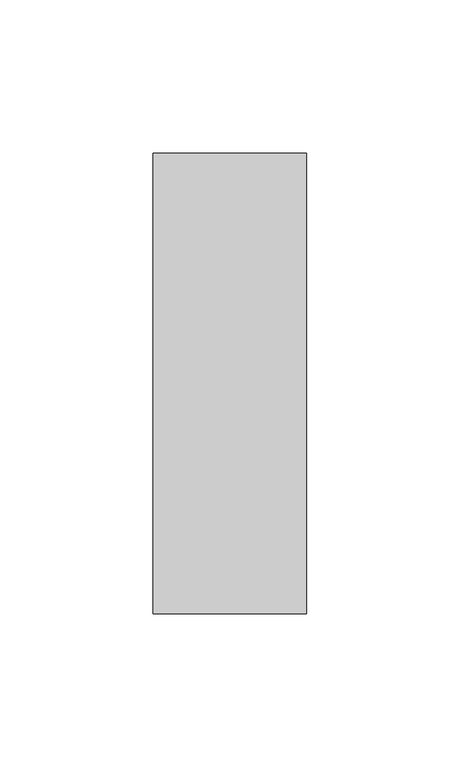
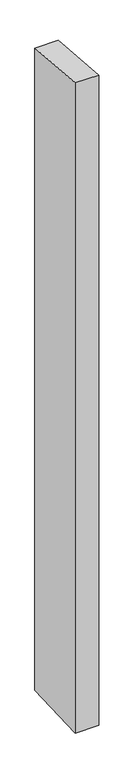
"""IFC4 building model written with IfcOpenShell, lengths in millimetres: member geometry, Прямоугольный импост : 50 x 150 мм."""

from ifc_helpers import new_model, si_unit, origin, place, context, project, spatial, faceted_brep, source, transform, mapped, element, save


def member_4011a3d6(model_context):
    return source(origin(), model_context, "Body", "Brep", [
        faceted_brep([(-25.0, 75.0, -6.1398041), (25.0, 75.0, -6.0086545), (25.0, 75.0, -1461.2400558), (-25.0, 75.0, -1461.1172983), (-25.0, -75.0, 6.0086545), (-25.0, -75.0, -1467.6530382), (25.0, -75.0, 6.1398041), (25.0, -75.0, -1467.7757957)], [[[0, 1, 2, 3]], [[4, 0, 3, 5]], [[6, 4, 5, 7]], [[1, 6, 7, 2]], [[1, 0, 4, 6]], [[2, 7, 5, 3]]]),
    ])


if __name__ == "__main__":
    model = new_model("IFC4")
    model_context = context("Model", 3, world=origin())
    ifc_project = project(units=[si_unit("LENGTHUNIT", "METRE", prefix="MILLI")], contexts=[model_context])
    site = spatial("IfcSite", under=ifc_project)
    building = spatial("IfcBuilding", under=site)
    placement = place(None, origin())
    member_shape = member_4011a3d6(model_context)
    element("IfcMember", 1, ObjectType="Прямоугольный импост : 50 x 150 мм", at=placement, inside=building, context=model_context, shape_type="MappedRepresentation", body=[
        mapped(member_shape, transform((0.0, 0.0, 0.0), x_axis=(1.0, 0.0, 0.0), y_axis=(0.0, 1.0, 0.0), z_axis=(0.0, 0.0, 1.0))),
    ])
    save(model, "model.ifc")
